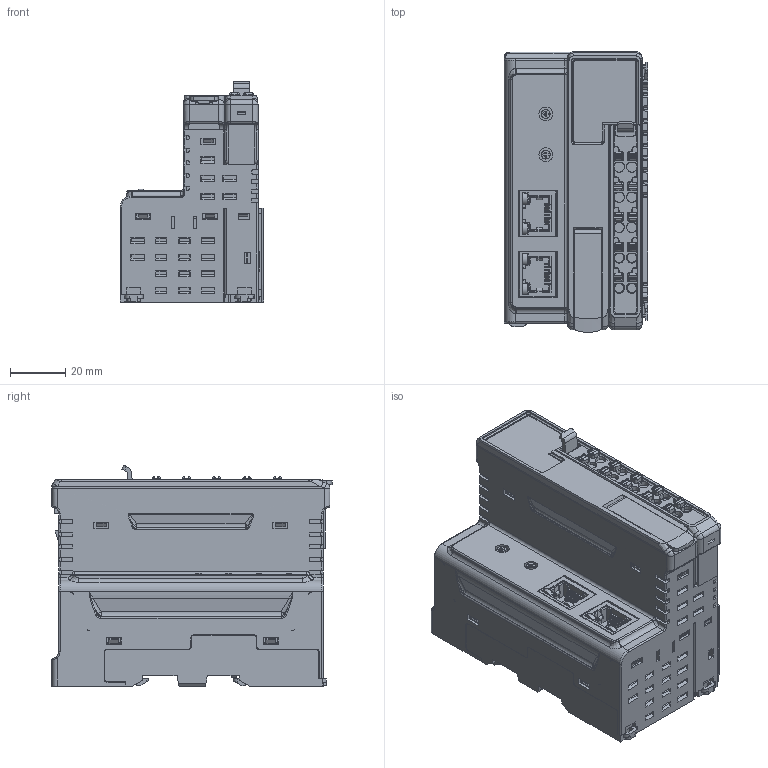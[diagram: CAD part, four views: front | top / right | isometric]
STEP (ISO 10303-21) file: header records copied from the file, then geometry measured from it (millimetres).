
FILE_DESCRIPTION((''),'2;1');
FILE_NAME('COUPLER-MODULE_SW0001','2026-02-04T12:31:02',('USER'),(''),'CREO PARAMETRIC BY PTC INC, 2025123','CREO PARAMETRIC BY PTC INC, 2025123','');
FILE_SCHEMA(('AUTOMOTIVE_DESIGN { 1 0 10303 214 1 1 1 1 }'));
Products named in the file (1): COUPLER-MODULE_SW0001
Bounding box: 52.15 x 101.84 x 80.34 mm (x, y, z)
Volume: 276119 mm3; surface area: 48561.6 mm2
Topology: 1 solids, 1 shells, 3268 faces, 8831 edges, 5655 vertices
Faces by surface type: plane 2308, cylinder 614, bspline 171, cone 90, torus 73, sphere 12
Entity records: 133592 total; most frequent: CARTESIAN_POINT 31496, ORIENTED_EDGE 17662, DIRECTION 15270, EDGE_CURVE 8831, VECTOR 6914, LINE 6914, VERTEX_POINT 5655, AXIS2_PLACEMENT_3D 4178
